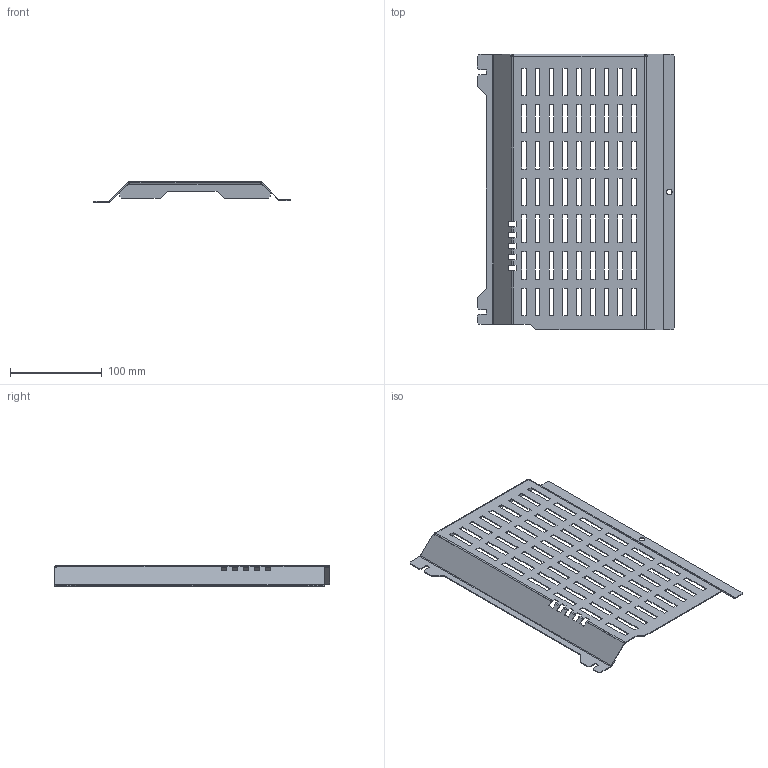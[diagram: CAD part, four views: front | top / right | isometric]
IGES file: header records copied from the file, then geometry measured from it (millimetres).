
Start section: SolidWorks IGES file using analytic representation for surfaces
Global section: file name: C:\PDF\庋.803-5-25.0.0.1.IGS,; native system: SolidWorks 2016; preprocessor: SolidWorks 2016; author: Diman; date: 210306.213124; units: millimetre
Bounding box: 215.5 x 300 x 22 mm (x, y, z)
Surface area: 124024.5 mm2 (no closed solid volume)
Topology: 0 solids, 0 shells, 394 faces, 2448 edges, 2448 vertices
Faces by surface type: bspline 372, revolution 22
